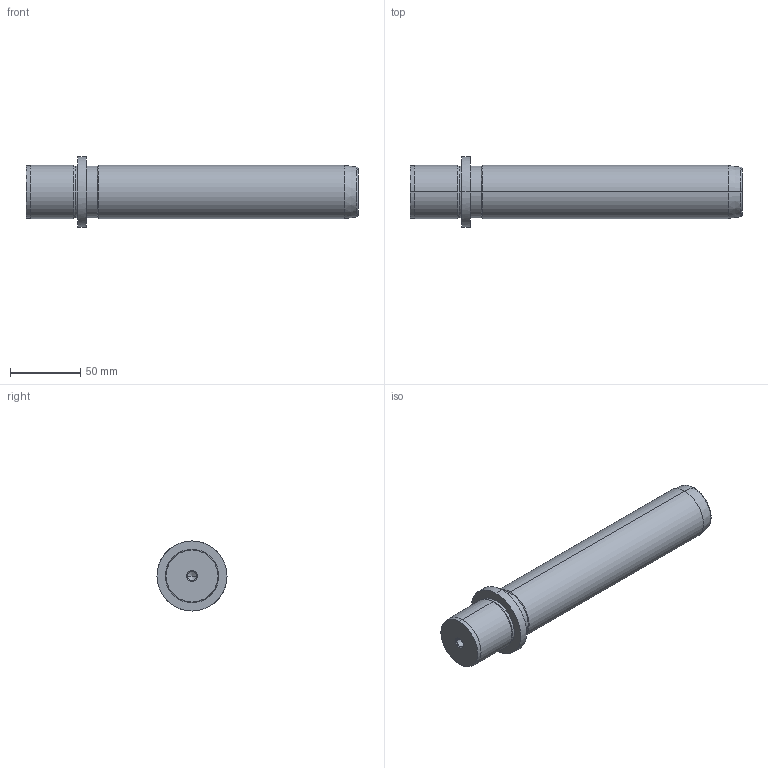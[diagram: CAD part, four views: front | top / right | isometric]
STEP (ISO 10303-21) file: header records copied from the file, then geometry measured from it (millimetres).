
FILE_DESCRIPTION(('CATIA V5 STEP Exchange'),'2;1');
FILE_NAME('C:\Users\Utente\Desktop\IO LAVORO\3D X SITO CF\X SITO\718\718-38x200.stp','2021-01-02T12:56:14+00:00',('none'),('none'),'CATIA Version 5 Release 20 GA (IN-10)','CATIA V5 STEP AP203','none');
FILE_SCHEMA(('CONFIG_CONTROL_DESIGN'));
Length unit declared in the file: millimetre
Products named in the file (1): 718-38x200
Bounding box: 237 x 50 x 50 mm (x, y, z)
Volume: 270580.6 mm3; surface area: 33300.9 mm2
Topology: 1 solids, 1 shells, 36 faces, 100 edges, 66 vertices
Faces by surface type: cone 16, cylinder 14, plane 4, torus 2
Entity records: 1291 total; most frequent: CARTESIAN_POINT 362, ORIENTED_EDGE 192, DIRECTION 157, EDGE_CURVE 96, AXIS2_PLACEMENT_3D 92, VERTEX_POINT 66, CIRCLE 55, EDGE_LOOP 40
